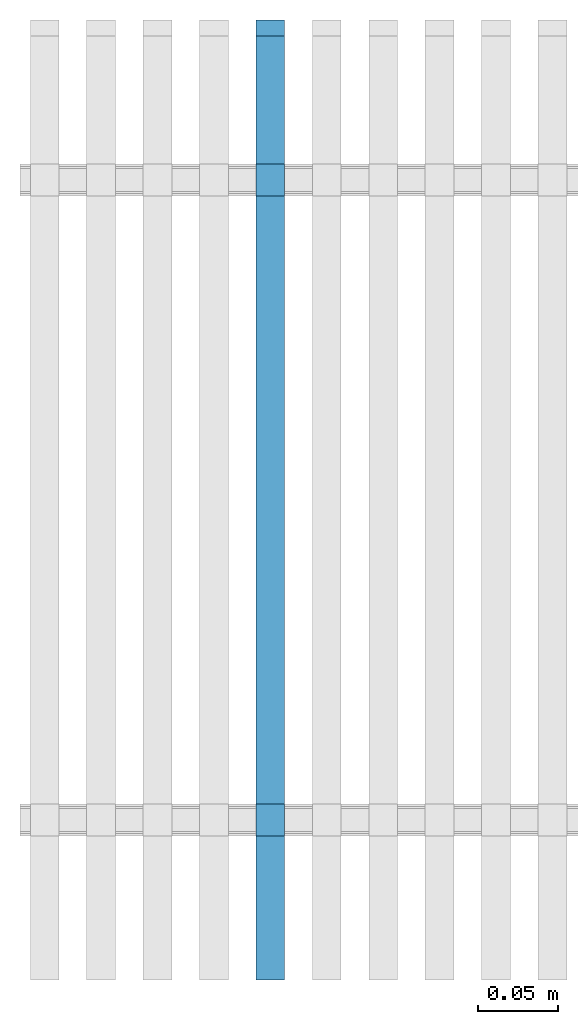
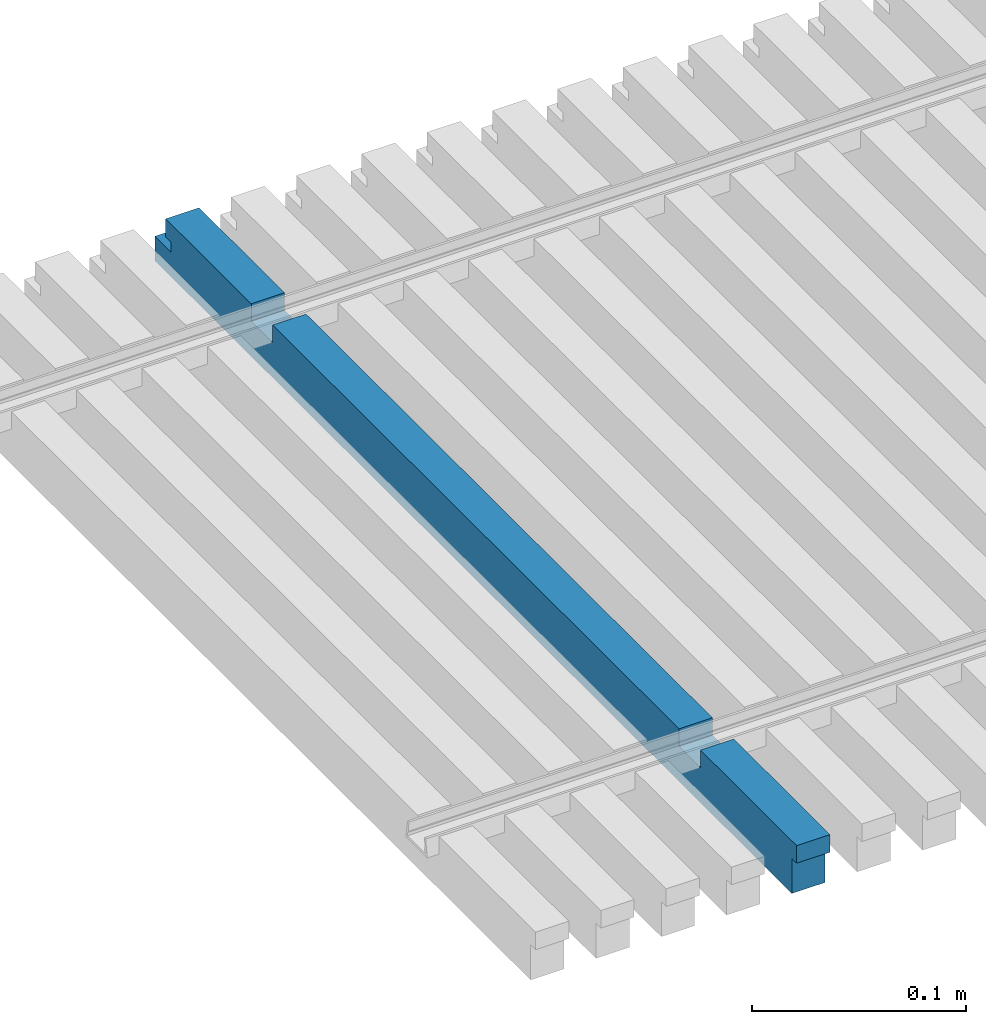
# One storey, part 3 of 3: 1 wall.
"""IFC2X3 building model written with IfcOpenShell, lengths in millimetres."""

from ifc_helpers import new_model, entity, si_unit, converted_unit, money_unit, direction, frame, origin_with_axes, place, context, subcontext, project, spatial, polyline, outline, extrude, boolean, faceted_brep, material, layer, layer_set, layer_usage, type_object, element, save


model = new_model("IFC2X3")

# Units and contexts
model_context = context("Model", 3, precision=1e-05, world=origin_with_axes(), true_north=direction((0.0, 1.0)))
body_context = subcontext(model_context, "Body", "Model", "MODEL_VIEW")
ifc_project = project(units=[si_unit("LENGTHUNIT", "METRE", prefix="MILLI"), si_unit("AREAUNIT", "SQUARE_METRE"), si_unit("VOLUMEUNIT", "CUBIC_METRE"), converted_unit("PLANEANGLEUNIT", "DEGREE", entity("IfcPlaneAngleMeasure", 0.0174532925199), si_unit("PLANEANGLEUNIT", "RADIAN"), dimensions=[0, 0, 0, 0, 0, 0, 0]), si_unit("SOLIDANGLEUNIT", "STERADIAN"), money_unit("AUD"), si_unit("TIMEUNIT", "SECOND"), si_unit("MASSUNIT", "GRAM"), si_unit("THERMODYNAMICTEMPERATUREUNIT", "DEGREE_CELSIUS"), si_unit("LUMINOUSINTENSITYUNIT", "LUMEN")], contexts=[model_context])

# Site, building, storey
site_placement = place(None, origin_with_axes())
site = spatial("IfcSite", under=ifc_project, at=site_placement, Name="Site", CompositionType="ELEMENT")
building_placement = place(site_placement, origin_with_axes())
building = spatial("IfcBuilding", under=site, at=building_placement, Name="Building", CompositionType="ELEMENT")
storey_placement = place(building_placement, origin_with_axes())
storey = spatial("IfcBuildingStorey", under=building, at=storey_placement, Name="GROUND", CompositionType="ELEMENT", Elevation=0.0)

# Wall
ifc_material = material(Name="Timber")
ifc_layer = layer(ifc_material, 18.0, ventilated="UNKNOWN")
ifc_layer_set = layer_set([ifc_layer], Name="Timber 18")
ifc_layer_usage = layer_usage(ifc_layer_set, "AXIS2", "POSITIVE", 0.0)
wall_type = type_object("IfcWallType", Name="Timber 18", PredefinedType="NOTDEFINED")
wall_placement = place(storey_placement, frame((167.955, 0.0, -30.0), z_axis=(0.0, 0.0, 1.0), x_axis=(0.0, 1.0, 0.0)))
element("IfcWallStandardCase", 1, at=wall_placement, inside=storey, type_object=wall_type, material=ifc_layer_usage, Name="WALL-01", context=body_context, shape_type="CSG", body=[
    boolean("DIFFERENCE", boolean("DIFFERENCE", boolean("DIFFERENCE", boolean("DIFFERENCE", extrude(outline(polyline([(0.0, 0.0), (600.0, 0.0), (600.0, 18.0), (0.0, 18.0), (0.0, 0.0)])), origin_with_axes(), (0.0, 0.0, 1.0), 30.0), faceted_brep([(4.5, 0.0, 20.0), (0.0, 0.0, 20.0), (0.0, 0.0, 0.0), (4.5, 0.0, 0.0), (4.5, 18.0, 20.0), (0.0, 18.0, 20.0), (0.0, 18.0, 0.0), (4.5, 18.0, 0.0)], [[[0, 1, 2, 3]], [[1, 0, 4, 5]], [[1, 5, 6, 2]], [[7, 3, 2, 6]], [[0, 3, 7, 4]], [[4, 7, 6, 5]]])), faceted_brep([(90.0, 0.0, 20.0), (110.0, 0.0, 20.0), (110.0, 0.0, 30.0), (90.0, 0.0, 30.0), (90.0, 18.0, 20.0), (110.0, 18.0, 20.0), (110.0, 18.0, 30.0), (90.0, 18.0, 30.0)], [[[0, 1, 2, 3]], [[1, 0, 4, 5]], [[6, 2, 1, 5]], [[7, 3, 2, 6]], [[0, 3, 7, 4]], [[4, 7, 6, 5]]])), faceted_brep([(490.0, 0.0, 20.0), (510.0, 0.0, 20.0), (510.0, 0.0, 30.0), (490.0, 0.0, 30.0), (490.0, 18.0, 20.0), (510.0, 18.0, 20.0), (510.0, 18.0, 30.0), (490.0, 18.0, 30.0)], [[[0, 1, 2, 3]], [[1, 0, 4, 5]], [[6, 2, 1, 5]], [[7, 3, 2, 6]], [[0, 3, 7, 4]], [[4, 7, 6, 5]]])), faceted_brep([(585.0, 0.0, 19.5), (585.0, 0.0, 14.0), (600.0, 0.0, 14.0), (600.0, 0.0, 30.0), (590.0, 0.0, 30.0), (590.0, 0.0, 19.5), (585.0, 18.0, 19.5), (585.0, 18.0, 14.0), (600.0, 18.0, 14.0), (600.0, 18.0, 30.0), (590.0, 18.0, 30.0), (590.0, 18.0, 19.5)], [[[0, 1, 2, 3, 4, 5]], [[1, 0, 6, 7]], [[8, 2, 1, 7]], [[2, 8, 9, 3]], [[10, 4, 3, 9]], [[5, 4, 10, 11]], [[0, 5, 11, 6]], [[11, 10, 9, 8, 7, 6]]])),
])

save(model, "model.ifc")
